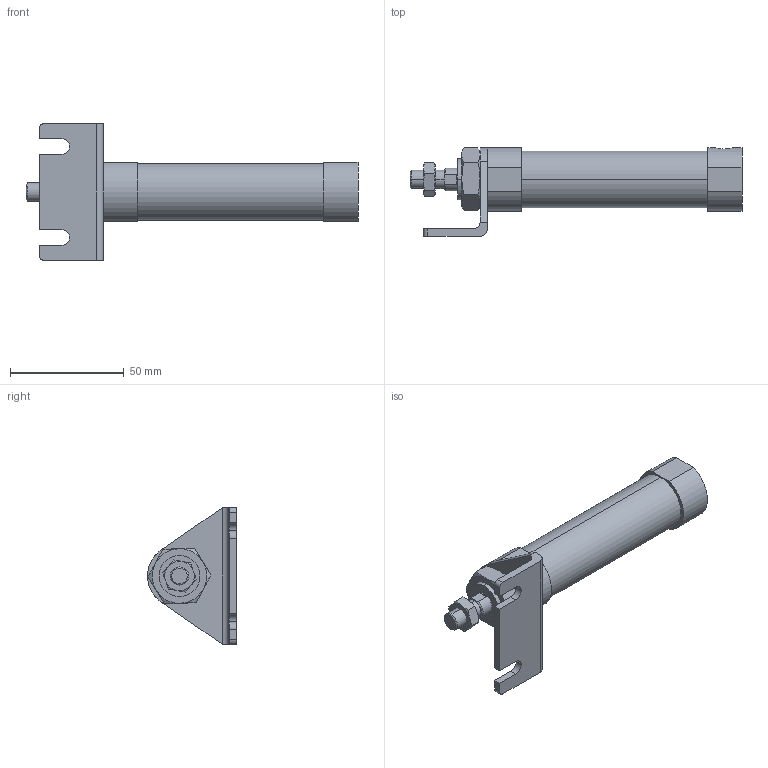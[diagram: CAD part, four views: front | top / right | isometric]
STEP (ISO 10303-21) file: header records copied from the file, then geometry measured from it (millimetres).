
FILE_DESCRIPTION (( 'STEP AP203' ), '1' );
FILE_NAME ('JGND1-20-15(25)-L.STEP', '2016-08-04T02:12:47', ( '' ), ( '' ), 'SwSTEP 2.0', 'SolidWorks 2014', '' );
FILE_SCHEMA (( 'CONFIG_CONTROL_DESIGN' ));
Length unit declared in the file: millimetre
Products named in the file (5): JGND1-20-15(25)-L; J#2-20-L; J#1-20-15(P)
Assembly tree (4 placements, depth 2):
  JGND1-20-15(25)-L
    J#1-20-15(P)
    (unnamed)
    (unnamed)
    J#2-20-L
Bounding box: 146 x 39 x 60 mm (x, y, z)
Volume: 73293 mm3; surface area: 20402.8 mm2
Topology: 4 solids, 4 shells, 108 faces, 249 edges, 156 vertices
Faces by surface type: plane 48, cylinder 32, torus 24, cone 4
Entity records: 3864 total; most frequent: CARTESIAN_POINT 910, DIRECTION 519, ORIENTED_EDGE 498, EDGE_CURVE 249, AXIS2_PLACEMENT_3D 209, VERTEX_POINT 156, EDGE_LOOP 121, ADVANCED_FACE 108
